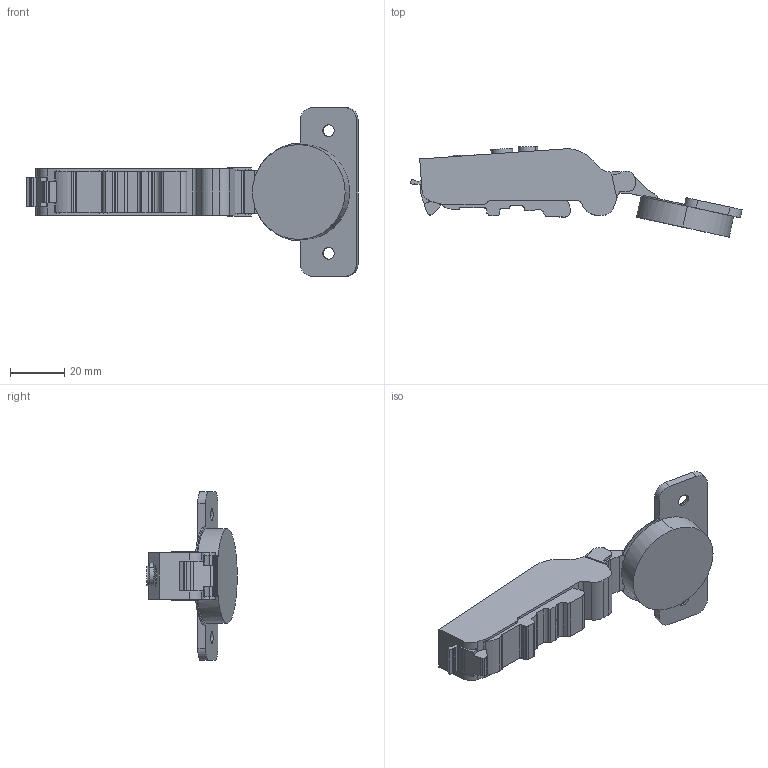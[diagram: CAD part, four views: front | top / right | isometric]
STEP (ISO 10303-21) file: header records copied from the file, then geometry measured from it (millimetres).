
FILE_DESCRIPTION (( 'STEP AP203' ), '1' );
FILE_NAME ('C81A8Q5FAB- DTC 3D open.STEP', '2024-11-29T07:54:30', ( '微软用户' ), ( '微软中国' ), 'SwSTEP 2.0', 'SolidWorks 2021', '' );
FILE_SCHEMA (( 'CONFIG_CONTROL_DESIGN' ));
Length unit declared in the file: millimetre
Products named in the file (1): C81A8Q5FAB- DTC 3D open
Bounding box: 121.86 x 33.17 x 62 mm (x, y, z)
Volume: 36948.3 mm3; surface area: 11660.7 mm2
Topology: 1 solids, 1 shells, 198 faces, 557 edges, 366 vertices
Faces by surface type: plane 90, cylinder 88, torus 14, cone 4, bspline 2
Entity records: 6545 total; most frequent: CARTESIAN_POINT 1205, DIRECTION 1135, ORIENTED_EDGE 1114, EDGE_CURVE 557, AXIS2_PLACEMENT_3D 404, VERTEX_POINT 366, VECTOR 327, LINE 327
